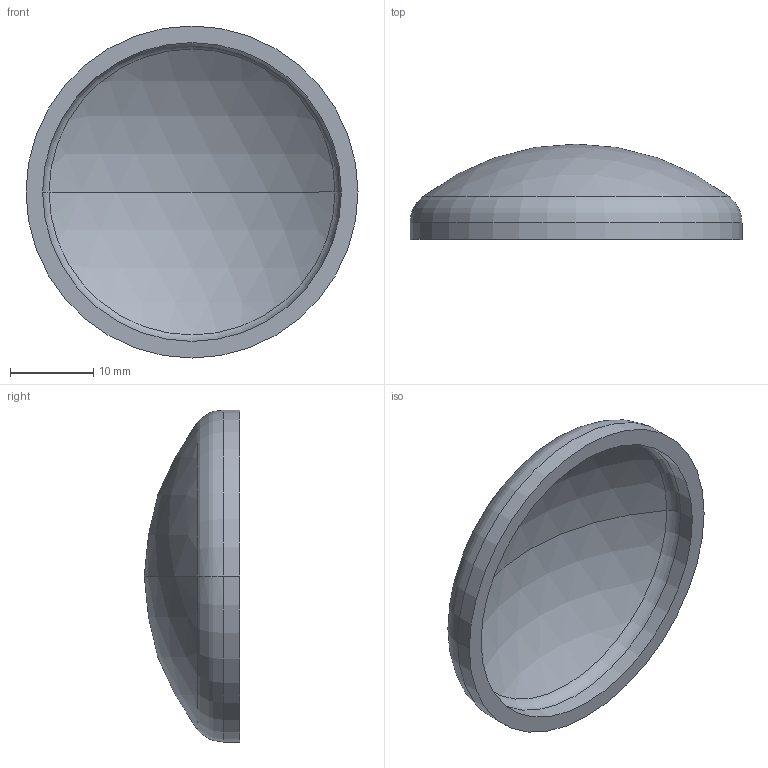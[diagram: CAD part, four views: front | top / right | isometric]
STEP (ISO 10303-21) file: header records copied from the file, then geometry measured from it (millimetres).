
FILE_DESCRIPTION (( 'STEP AP203' ), '1' );
FILE_NAME ('3D_R365_40x2_173373200.STEP', '2024-07-16T07:04:10', ( '' ), ( '' ), 'SwSTEP 2.0', 'SolidWorks 2024', '' );
FILE_SCHEMA (( 'CONFIG_CONTROL_DESIGN' ));
Length unit declared in the file: millimetre
Products named in the file (1): 3D_R365_40x2_173373200
Bounding box: 40 x 11.5 x 40 mm (x, y, z)
Volume: 3355.1 mm3; surface area: 3602.3 mm2
Topology: 1 solids, 1 shells, 13 faces, 24 edges, 14 vertices
Faces by surface type: sphere 4, torus 4, cylinder 4, plane 1
Entity records: 407 total; most frequent: DIRECTION 72, CARTESIAN_POINT 52, ORIENTED_EDGE 48, AXIS2_PLACEMENT_3D 34, EDGE_CURVE 24, CIRCLE 20, VERTEX_POINT 14, EDGE_LOOP 14
